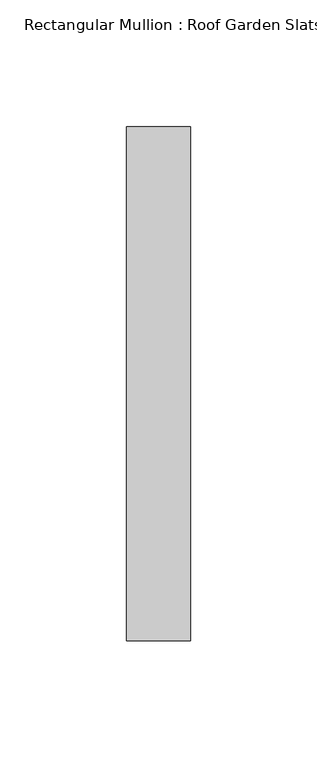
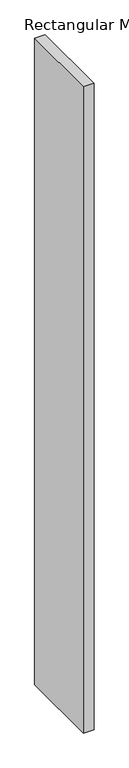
"""IFC4 building model written with IfcOpenShell, lengths in millimetres: member geometry, Rectangular Mullion : Roof Garden Slats."""

from ifc_helpers import new_model, si_unit, frame, origin, place, context, project, spatial, polyline, outline, extrude, source, transform, mapped, element, save


def rectangular_mullion_roof_garden_slats_c5388d4c(model_context):
    return source(origin(), model_context, "Body", "SweptSolid", [
        extrude(outline(polyline([(0.0, 139.7), (0.0, -63.5), (-25.4, -63.5), (-25.4, 139.7), (0.0, 139.7)])), frame((0.0, 0.0, -1639.0705619), z_axis=(0.0, 0.0, 1.0), x_axis=(1.0, 0.0, 0.0)), (0.0, 0.0, 1.0), 1639.0705619),
    ])


if __name__ == "__main__":
    model = new_model("IFC4")
    model_context = context("Model", 3, world=origin())
    ifc_project = project(units=[si_unit("LENGTHUNIT", "METRE", prefix="MILLI")], contexts=[model_context])
    site = spatial("IfcSite", under=ifc_project)
    building = spatial("IfcBuilding", under=site)
    placement = place(None, origin())
    rectangular_mullion_roof_garden_slats_shape = rectangular_mullion_roof_garden_slats_c5388d4c(model_context)
    element("IfcMember", 1, ObjectType="Rectangular Mullion : Roof Garden Slats", at=placement, inside=building, context=model_context, shape_type="MappedRepresentation", body=[
        mapped(rectangular_mullion_roof_garden_slats_shape, transform((0.0, 0.0, 0.0), x_axis=(1.0, 0.0, 0.0), y_axis=(0.0, 1.0, 0.0), z_axis=(0.0, 0.0, 1.0))),
    ])
    save(model, "model.ifc")
